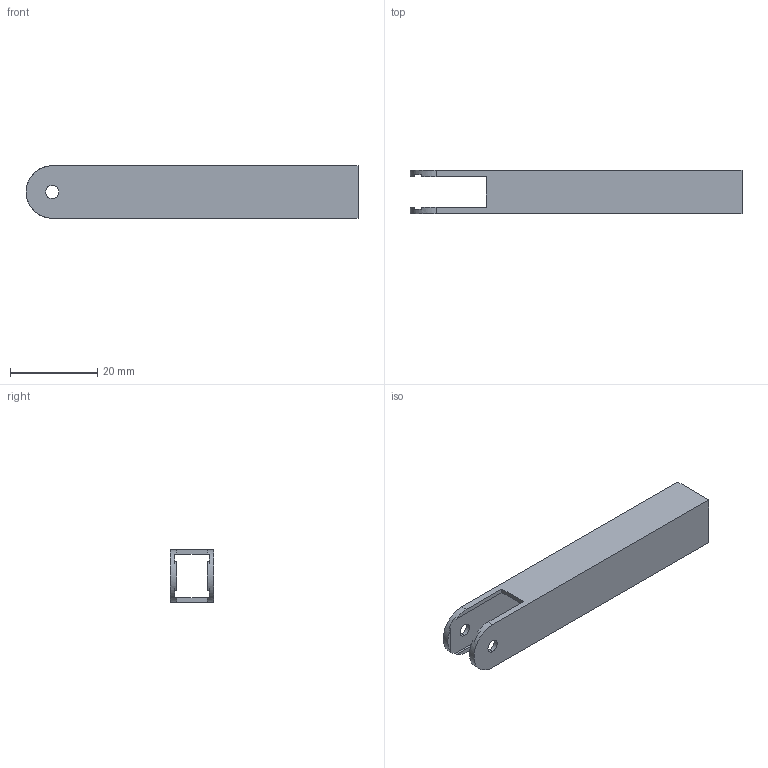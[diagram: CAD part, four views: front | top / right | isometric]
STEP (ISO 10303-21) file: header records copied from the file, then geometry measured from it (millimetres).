
FILE_DESCRIPTION (( 'STEP AP203' ), '1' );
FILE_NAME ('P-R_Domyœlna_sldprt.STEP', '2024-04-08T11:03:01', ( '' ), ( '' ), 'SwSTEP 2.0', 'SolidWorks 2024', '' );
FILE_SCHEMA (( 'CONFIG_CONTROL_DESIGN' ));
Length unit declared in the file: millimetre
Products named in the file (1): P-R_Domyślna_sldprt
Bounding box: 76 x 10 x 12 mm (x, y, z)
Volume: 2747 mm3; surface area: 5659.8 mm2
Topology: 1 solids, 1 shells, 25 faces, 72 edges, 48 vertices
Faces by surface type: plane 19, cylinder 6
Entity records: 915 total; most frequent: CARTESIAN_POINT 146, DIRECTION 144, ORIENTED_EDGE 144, EDGE_CURVE 72, VECTOR 52, LINE 52, VERTEX_POINT 48, AXIS2_PLACEMENT_3D 46
